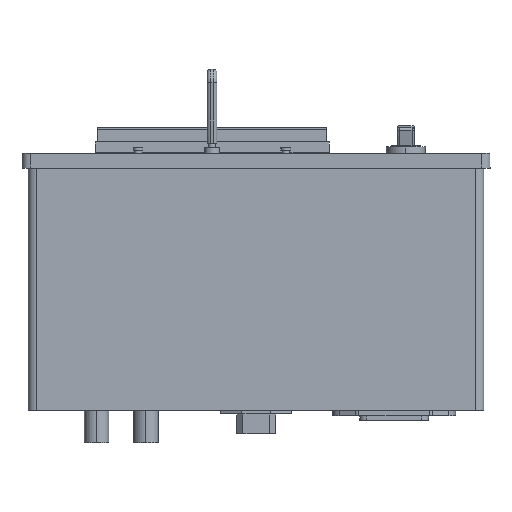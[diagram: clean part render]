
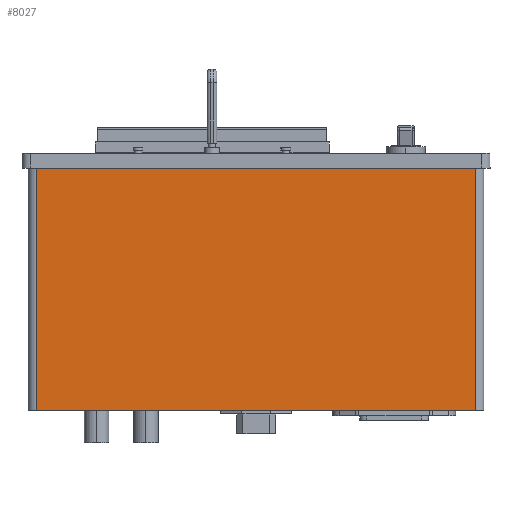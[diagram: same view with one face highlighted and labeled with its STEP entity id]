
A CAD part, front view. The second image highlights one B-rep face of the part: STEP entity #8027.
In plain terms, the highlighted planar face has unit normal (0, -1, 0).
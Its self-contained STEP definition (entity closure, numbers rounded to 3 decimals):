
#1664=FACE_OUTER_BOUND('',#2770,.F.);
#2770=EDGE_LOOP('',(#6139,#6140,#6141,#6142));
#6139=ORIENTED_EDGE('',*,*,#15366,.F.);
#6140=ORIENTED_EDGE('',*,*,#15342,.F.);
#6141=ORIENTED_EDGE('',*,*,#15360,.T.);
#6142=ORIENTED_EDGE('',*,*,#15372,.T.);
#8027=ADVANCED_FACE('',(#1664),#8679,.T.);
#8679=PLANE('',#18961);
#11220=LINE('',#27459,#12709);
#11234=LINE('',#27477,#12723);
#11238=LINE('',#27483,#12727);
#11242=LINE('',#27489,#12731);
#12709=VECTOR('',#22791,178.4);
#12723=VECTOR('',#22813,100.);
#12727=VECTOR('',#22821,100.);
#12731=VECTOR('',#22829,178.4);
#15342=EDGE_CURVE('',#16956,#16955,#11220,.T.);
#15360=EDGE_CURVE('',#16956,#16936,#11234,.T.);
#15366=EDGE_CURVE('',#16955,#16932,#11238,.T.);
#15372=EDGE_CURVE('',#16936,#16932,#11242,.T.);
#16932=VERTEX_POINT('',#27356);
#16936=VERTEX_POINT('',#27360);
#16955=VERTEX_POINT('',#27379);
#16956=VERTEX_POINT('',#27380);
#18961=AXIS2_PLACEMENT_3D('',#27541,#22899,#22900);
#22791=DIRECTION('',(1.,0.,0.));
#22813=DIRECTION('',(0.,0.,1.));
#22821=DIRECTION('',(0.,0.,1.));
#22829=DIRECTION('',(1.,0.,0.));
#22899=DIRECTION('',(0.,-1.,0.));
#22900=DIRECTION('',(0.,0.,1.));
#27356=CARTESIAN_POINT('',(78.917,-213.818,48.695));
#27360=CARTESIAN_POINT('',(-99.483,-213.818,48.695));
#27379=CARTESIAN_POINT('',(78.917,-213.818,-51.305));
#27380=CARTESIAN_POINT('',(-99.483,-213.818,-51.305));
#27459=CARTESIAN_POINT('',(-99.483,-213.818,-51.305));
#27477=CARTESIAN_POINT('',(-99.483,-213.818,-51.305));
#27483=CARTESIAN_POINT('',(78.917,-213.818,-51.305));
#27489=CARTESIAN_POINT('',(-99.483,-213.818,48.695));
#27541=CARTESIAN_POINT('',(84.271,-213.818,-53.359));
